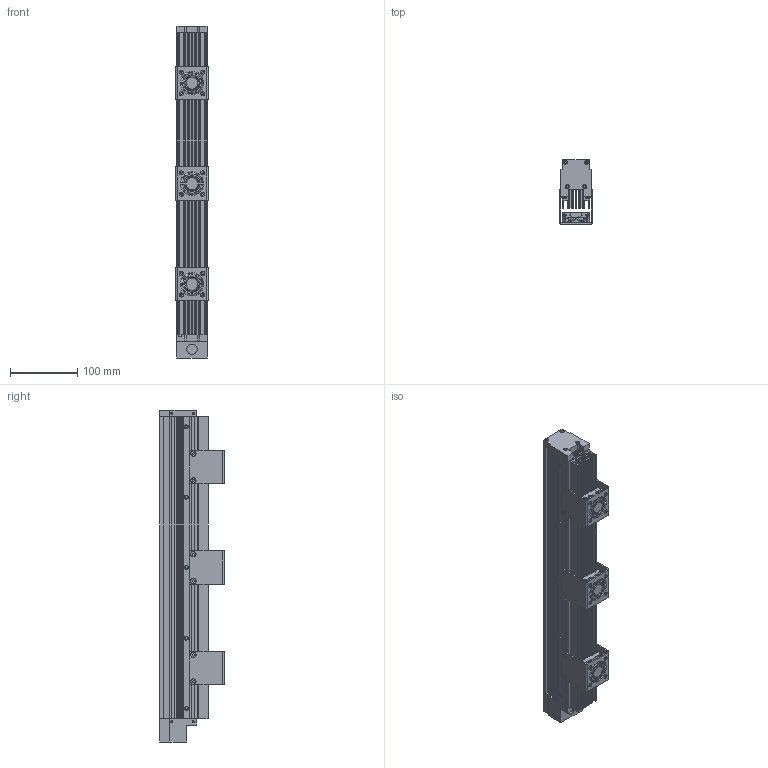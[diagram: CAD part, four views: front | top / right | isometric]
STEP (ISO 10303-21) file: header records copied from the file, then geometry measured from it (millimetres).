
FILE_DESCRIPTION (( 'STEP AP203' ), '1' );
FILE_NAME ('CK-2LPX-450-00.STEP', '2025-09-16T06:00:24', ( '' ), ( '' ), 'SwSTEP 2.0', 'SolidWorks 2022', '' );
FILE_SCHEMA (( 'CONFIG_CONTROL_DESIGN' ));
Length unit declared in the file: millimetre
Products named in the file (22): M4螺丝; CK-2LPX-450-00; M4X6; CK-2LPX-450-B01; M4X2; CK-2LPX-450-A07; SHAFT824-8-2; M3螺丝; CASE24-8-2; M3X12; CK-2LPX-450-A05; CK-2LPX-450-A01; CK-2LPX-450-A06; CK-2LPX-450-A03; 4010FR-140820-0224-8-2; 4010-150309-0124-8-2; M3X8; TBK02-M3; CK-2LPX-450-A04; CK-2LPX-450-A02; 风扇 40X5X152; SLEEVE124-8-2
Assembly tree (67 placements, depth 3):
  CK-2LPX-450-00
    CK-2LPX-450-A01
    CK-2LPX-450-A02  x2
    CK-2LPX-450-A03
    CK-2LPX-450-A04
    CK-2LPX-450-A05
    CK-2LPX-450-A06
    CK-2LPX-450-A07  x3
    CK-2LPX-450-B01  x3
    风扇 40X5X152  x3
      4010FR-140820-0224-8-2
      4010-150309-0124-8-2
      CASE24-8-2
      SHAFT824-8-2
      SLEEVE124-8-2
    M3X8  x18
    M4螺丝  x12
      M4X6
      M4X2
    M3螺丝  x12
      M3X12
      TBK02-M3
Bounding box: 49 x 96 x 495 mm (x, y, z)
Volume: 929488.4 mm3; surface area: 653995.8 mm2
Topology: 94 solids, 94 shells, 3842 faces, 9277 edges, 5795 vertices
Faces by surface type: plane 1642, cone 979, cylinder 909, bspline 168, torus 138, sphere 6
Entity records: 54795 total; most frequent: CARTESIAN_POINT 23652, ORIENTED_EDGE 5730, DIRECTION 5666, EDGE_CURVE 2865, AXIS2_PLACEMENT_3D 2028, VERTEX_POINT 1847, VECTOR 1610, LINE 1610
